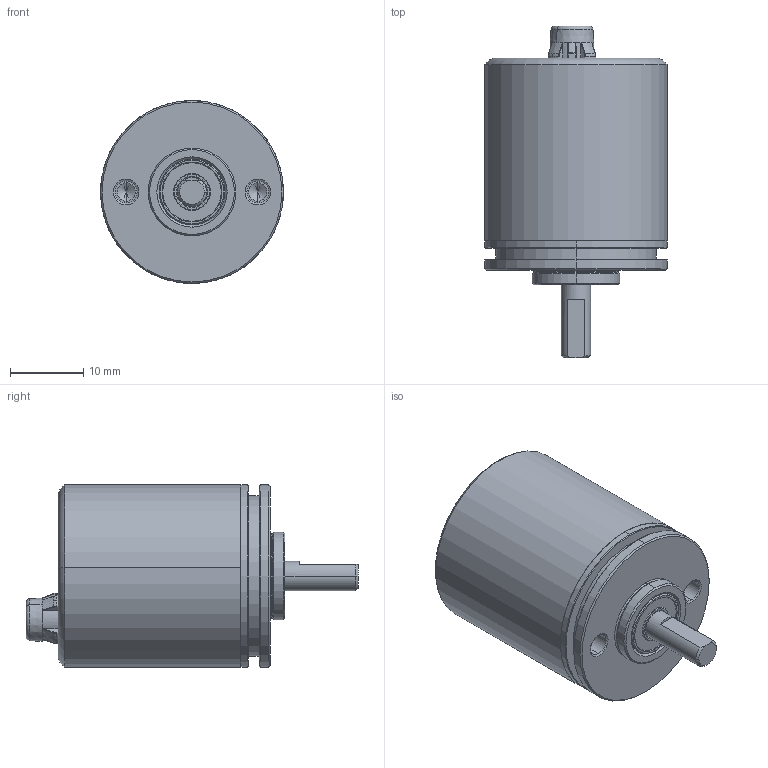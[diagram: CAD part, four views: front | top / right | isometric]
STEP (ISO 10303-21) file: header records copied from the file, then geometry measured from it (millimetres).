
FILE_DESCRIPTION (( 'STEP AP214' ), '1' );
FILE_NAME ('B-ZSC2504.STEP', '2022-07-14T05:29:37', ( '' ), ( '' ), 'SwSTEP 2.0', 'SolidWorks 2022', '' );
FILE_SCHEMA (( 'AUTOMOTIVE_DESIGN' ));
Length unit declared in the file: millimetre
Products named in the file (8): B-ZSC2504; 01-25H21-2017.STEP; 02-4L26-2017.STEP; 684____.STEP; 14-4H8-2017.STEP; 03-25H25E-2017.STEP; 08-4.01-2017.STEP; B-ZSP2504.STEP
Assembly tree (9 placements, depth 3):
  B-ZSC2504
    B-ZSP2504.STEP
      01-25H21-2017.STEP
      02-4L26-2017.STEP
      08-4.01-2017.STEP
      03-25H25E-2017.STEP
      684____.STEP  x3
      14-4H8-2017.STEP
Bounding box: 25 x 45.4 x 25 mm (x, y, z)
Volume: 6621.2 mm3; surface area: 9657.5 mm2
Topology: 8 solids, 8 shells, 403 faces, 939 edges, 572 vertices
Faces by surface type: cone 130, cylinder 106, plane 84, bspline 43, torus 40
Entity records: 12964 total; most frequent: CARTESIAN_POINT 4748, DIRECTION 1677, ORIENTED_EDGE 1654, EDGE_CURVE 827, AXIS2_PLACEMENT_3D 697, VERTEX_POINT 508, EDGE_LOOP 387, CIRCLE 376
